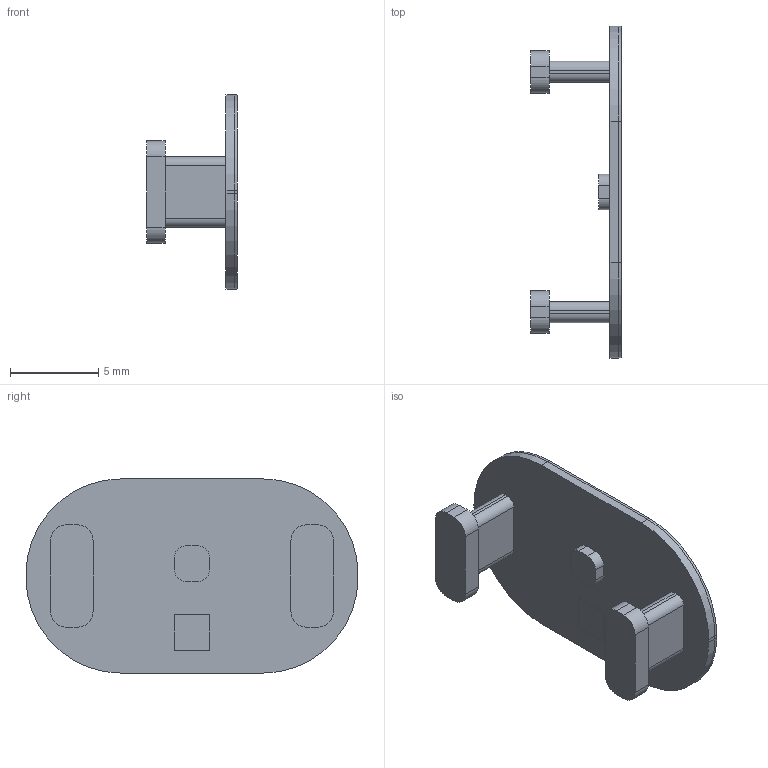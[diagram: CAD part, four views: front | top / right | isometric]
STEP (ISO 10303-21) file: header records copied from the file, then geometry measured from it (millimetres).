
FILE_DESCRIPTION(/* description */ (''),/* implementation_level */ '2;1');
FILE_NAME(/* name */ 'C27_R2_08_Volume_Down_Rigid_Carrier.step',/* time_stamp */ '2026-09-10T13:08:42-07:00',/* author */ (''),/* organization */ (''),/* preprocessor_version */ 'ST-DEVELOPER v20.1',/* originating_system */ 'Autodesk Translation Framework v15.8.0.0',/* authorisation */ '');
FILE_SCHEMA (('AUTOMOTIVE_DESIGN { 1 0 10303 214 3 1 1 }'));
Length unit declared in the file: millimetre
Products named in the file (1): 2026-09-10-13-08-42-198
Bounding box: 5.15 x 18.8 x 11 mm (x, y, z)
Volume: 179.9 mm3; surface area: 531.9 mm2
Topology: 1 solids, 1 shells, 68 faces, 172 edges, 112 vertices
Faces by surface type: plane 36, cylinder 28, torus 4
Entity records: 2085 total; most frequent: DIRECTION 370, CARTESIAN_POINT 353, ORIENTED_EDGE 344, EDGE_CURVE 172, AXIS2_PLACEMENT_3D 129, LINE 112, VECTOR 112, VERTEX_POINT 112
